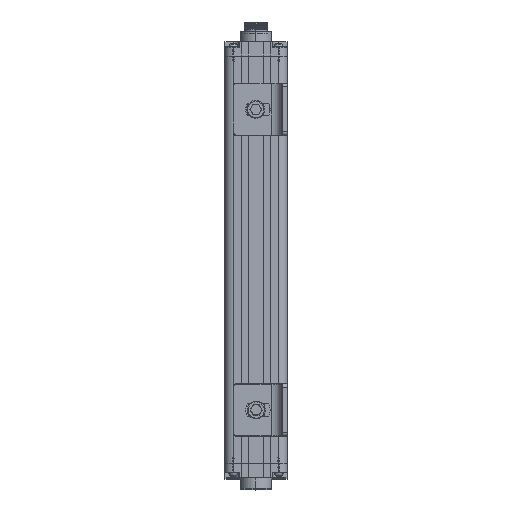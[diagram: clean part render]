
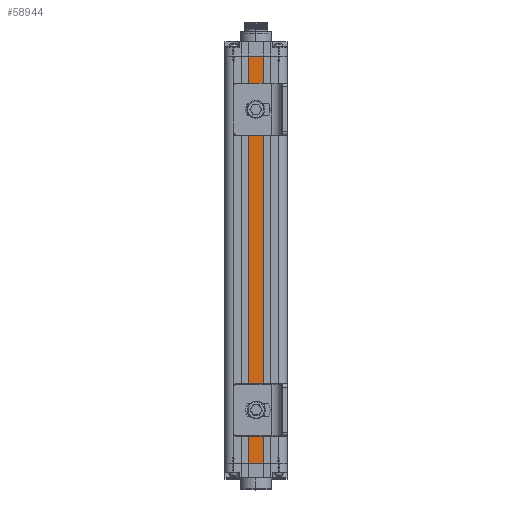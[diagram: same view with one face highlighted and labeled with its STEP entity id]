
A CAD part, top view. The second image highlights one B-rep face of the part: STEP entity #58944.
In plain terms, the highlighted planar face has unit normal (0, 0, 1).
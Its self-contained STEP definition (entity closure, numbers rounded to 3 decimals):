
#207 = ORIENTED_EDGE ( 'NONE', *, *, #97375, .T. ) ;
#6333 = EDGE_CURVE ( 'NONE', #89812, #40599, #133465, .T. ) ;
#6455 = VERTEX_POINT ( 'NONE', #113023 ) ;
#12115 = CARTESIAN_POINT ( 'NONE',  ( -7.9, 0., 8.525 ) ) ;
#13703 = EDGE_LOOP ( 'NONE', ( #38485, #207, #73911, #47607 ) ) ;
#18711 = VECTOR ( 'NONE', #95901, 1000. ) ;
#19561 = CARTESIAN_POINT ( 'NONE',  ( 7.9, 0., 8.525 ) ) ;
#21717 = CARTESIAN_POINT ( 'NONE',  ( -7.9, 0., 8.525 ) ) ;
#25435 = DIRECTION ( 'NONE',  ( 1., 0., 0. ) ) ;
#30744 = AXIS2_PLACEMENT_3D ( 'NONE', #69492, #68546, #25435 ) ;
#36674 = CARTESIAN_POINT ( 'NONE',  ( -7.9, 225., 8.525 ) ) ;
#37056 = VECTOR ( 'NONE', #40151, 1000. ) ;
#38485 = ORIENTED_EDGE ( 'NONE', *, *, #6333, .T. ) ;
#40151 = DIRECTION ( 'NONE',  ( 0., 1., 0. ) ) ;
#40599 = VERTEX_POINT ( 'NONE', #21717 ) ;
#47362 = LINE ( 'NONE', #19561, #37056 ) ;
#47607 = ORIENTED_EDGE ( 'NONE', *, *, #65425, .T. ) ;
#58944 = ADVANCED_FACE ( 'NONE', ( #65134 ), #113508, .T. ) ;
#64297 = CARTESIAN_POINT ( 'NONE',  ( -7.9, 0., 8.525 ) ) ;
#65134 = FACE_OUTER_BOUND ( 'NONE', #13703, .T. ) ;
#65425 = EDGE_CURVE ( 'NONE', #71290, #89812, #101995, .T. ) ;
#68546 = DIRECTION ( 'NONE',  ( 0., 0., 1. ) ) ;
#69492 = CARTESIAN_POINT ( 'NONE',  ( -7.9, 0., 8.525 ) ) ;
#71290 = VERTEX_POINT ( 'NONE', #91701 ) ;
#73911 = ORIENTED_EDGE ( 'NONE', *, *, #115253, .T. ) ;
#86966 = CARTESIAN_POINT ( 'NONE',  ( -7.9, 225., 8.525 ) ) ;
#88724 = DIRECTION ( 'NONE',  ( 0., -1., 0. ) ) ;
#89812 = VERTEX_POINT ( 'NONE', #36674 ) ;
#91701 = CARTESIAN_POINT ( 'NONE',  ( 7.9, 225., 8.525 ) ) ;
#95901 = DIRECTION ( 'NONE',  ( 1., 0., 0. ) ) ;
#97375 = EDGE_CURVE ( 'NONE', #40599, #6455, #128145, .T. ) ;
#98974 = DIRECTION ( 'NONE',  ( -1., 0., 0. ) ) ;
#101995 = LINE ( 'NONE', #86966, #117289 ) ;
#104367 = VECTOR ( 'NONE', #88724, 1000. ) ;
#113023 = CARTESIAN_POINT ( 'NONE',  ( 7.9, 0., 8.525 ) ) ;
#113508 = PLANE ( 'NONE',  #30744 ) ;
#115253 = EDGE_CURVE ( 'NONE', #6455, #71290, #47362, .T. ) ;
#117289 = VECTOR ( 'NONE', #98974, 1000. ) ;
#128145 = LINE ( 'NONE', #64297, #18711 ) ;
#133465 = LINE ( 'NONE', #12115, #104367 ) ;
